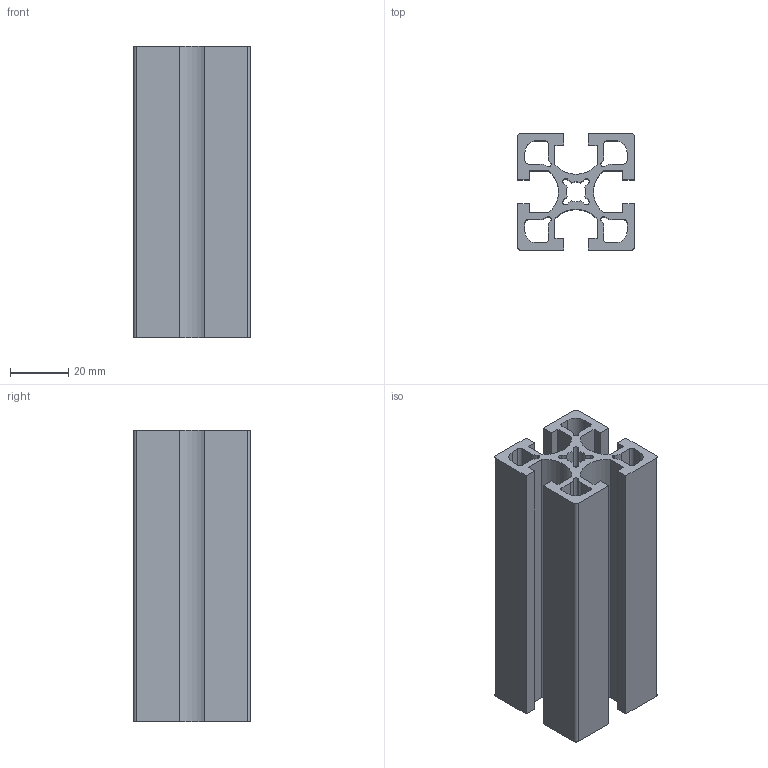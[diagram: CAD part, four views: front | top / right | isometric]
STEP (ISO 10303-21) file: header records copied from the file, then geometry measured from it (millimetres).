
FILE_DESCRIPTION (( 'STEP AP203' ), '1' );
FILE_NAME ('WS4040-8.STEP', '2024-02-19T03:32:21', ( '' ), ( '' ), 'SwSTEP 2.0', 'SolidWorks 2022', '' );
FILE_SCHEMA (( 'CONFIG_CONTROL_DESIGN' ));
Length unit declared in the file: millimetre
Products named in the file (1): WS4040-8
Bounding box: 40 x 40 x 100 mm (x, y, z)
Volume: 63717.3 mm3; surface area: 47787.4 mm2
Topology: 1 solids, 1 shells, 114 faces, 336 edges, 224 vertices
Faces by surface type: plane 60, cylinder 54
Entity records: 3925 total; most frequent: CARTESIAN_POINT 675, DIRECTION 674, ORIENTED_EDGE 672, EDGE_CURVE 336, LINE 228, VECTOR 228, VERTEX_POINT 224, AXIS2_PLACEMENT_3D 223
